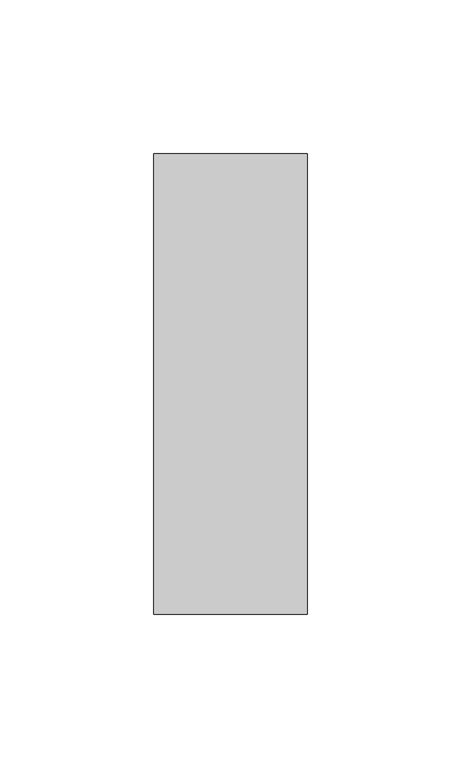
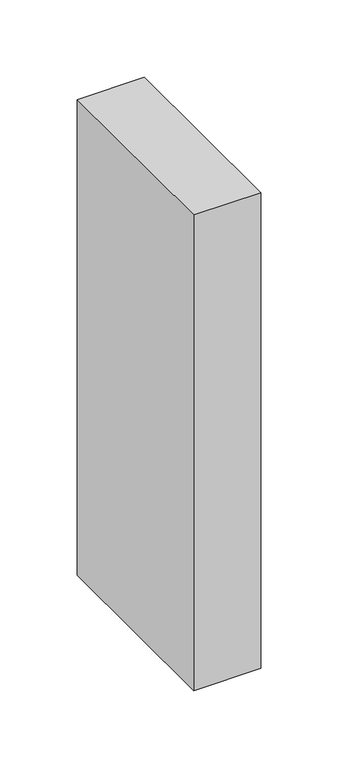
"""IFC4 building model written with IfcOpenShell, lengths in millimetres: member geometry, Прямоугольный импост : 50х150мм."""

from ifc_helpers import new_model, si_unit, frame, origin, place, context, project, spatial, polyline, outline, extrude, source, transform, mapped, element, save


def member_55273b40(model_context):
    return source(origin(), model_context, "Body", "SweptSolid", [
        extrude(outline(polyline([(25.0, 75.0), (25.0, -75.0), (-25.0, -75.0), (-25.0, 75.0), (25.0, 75.0)])), frame((0.0, 0.0, -375.0), z_axis=(0.0, 0.0, 1.0), x_axis=(1.0, 0.0, 0.0)), (0.0, 0.0, 1.0), 375.0),
    ])


if __name__ == "__main__":
    model = new_model("IFC4")
    model_context = context("Model", 3, world=origin())
    ifc_project = project(units=[si_unit("LENGTHUNIT", "METRE", prefix="MILLI")], contexts=[model_context])
    site = spatial("IfcSite", under=ifc_project)
    building = spatial("IfcBuilding", under=site)
    placement = place(None, origin())
    member_shape = member_55273b40(model_context)
    element("IfcMember", 1, ObjectType="Прямоугольный импост : 50х150мм", at=placement, inside=building, context=model_context, shape_type="MappedRepresentation", body=[
        mapped(member_shape, transform((0.0, 0.0, 0.0), x_axis=(1.0, 0.0, 0.0), y_axis=(0.0, 1.0, 0.0), z_axis=(0.0, 0.0, 1.0))),
    ])
    save(model, "model.ifc")
